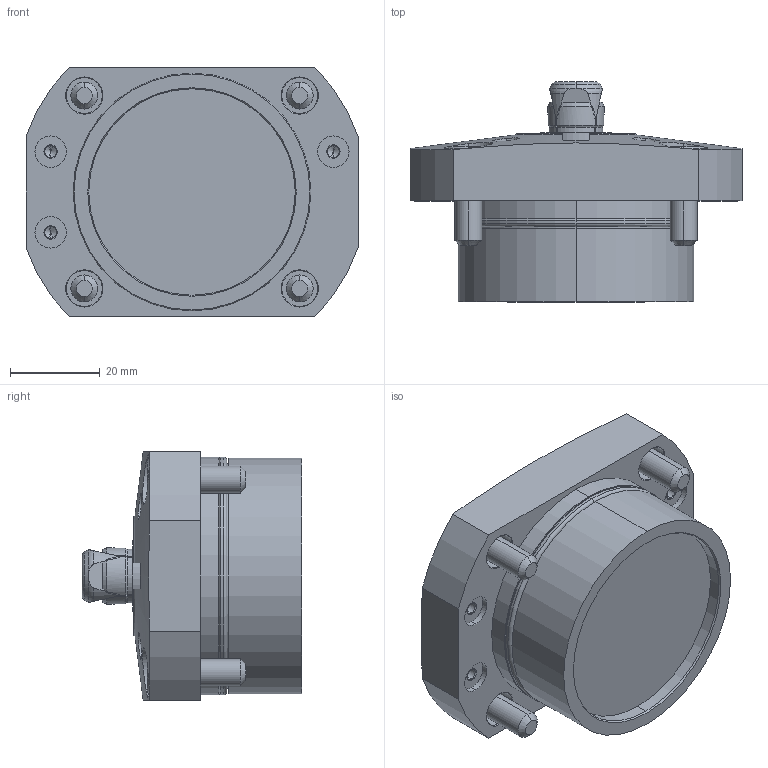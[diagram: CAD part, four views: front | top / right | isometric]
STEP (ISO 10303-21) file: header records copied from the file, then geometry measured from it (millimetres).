
FILE_DESCRIPTION (( 'STEP AP203' ), '1' );
FILE_NAME ('SFH3130.STEP', '2010-11-03T23:21:52', ( ' ' ), ( ' ' ), 'SwSTEP 2.0', 'SolidWorks 2010', '' );
FILE_SCHEMA (( 'CONFIG_CONTROL_DESIGN' ));
Length unit declared in the file: millimetre
Products named in the file (7): SFH3130_套菁轤礁诎蔬晅; 6妏寠晅无倌_M6_16; SFH3130; SFH3_钾堇轤O剌皋晅; φ13_ｽﾘｰﾌﾞ; 冇13_郫霓; 6妏寠晅无倌_M3_10
Assembly tree (14 placements, depth 2):
  SFH3130
    SFH3_钾堇轤O剌皋晅
    SFH3130_套菁轤礁诎蔬晅
    6妏寠晅无倌_M3_10  x6
    6妏寠晅无倌_M6_16  x4
    冇13_郫霓
    φ13_ｽﾘｰﾌﾞ
Bounding box: 74 x 49 x 55.5 mm (x, y, z)
Volume: 95138.8 mm3; surface area: 29612.1 mm2
Topology: 18 solids, 18 shells, 564 faces, 1147 edges, 630 vertices
Faces by surface type: plane 227, cone 180, cylinder 138, torus 19
Entity records: 10586 total; most frequent: CARTESIAN_POINT 2557, DIRECTION 1570, ORIENTED_EDGE 1406, EDGE_CURVE 703, AXIS2_PLACEMENT_3D 652, VERTEX_POINT 430, EDGE_LOOP 361, CIRCLE 319
